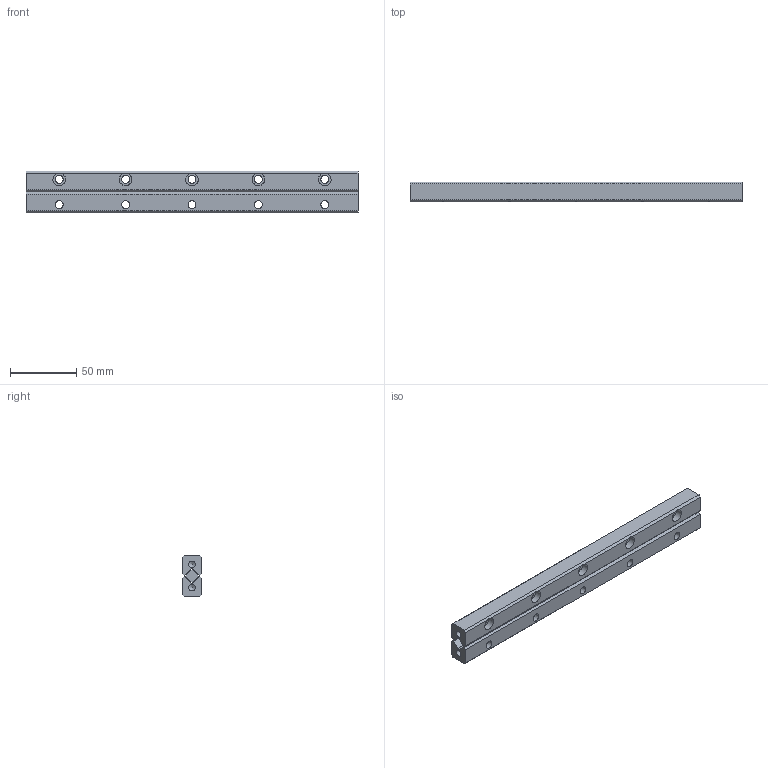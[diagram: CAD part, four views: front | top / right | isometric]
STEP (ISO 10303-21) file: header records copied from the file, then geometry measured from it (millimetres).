
FILE_DESCRIPTION((''),'2;1');
FILE_NAME('D:\製品 (図面)\カタログ用3D\リニアガイド関連\STEP形式\ACS6\ACS6250.stp','2010-07-29T15:43:25',('Tsuchiya'),(''),'Autodesk Inventor 10','Autodesk Inventor 10','');
FILE_SCHEMA(('AUTOMOTIVE_DESIGN { 1 0 10303 214 1 1 1 1 }'));
Length unit declared in the file: millimetre
Products named in the file (4): ACS6250; ACS62501; ACS62502; ACS62503
Assembly tree (3 placements, depth 2):
  ACS6250
    ACS62501
    ACS62502
    ACS62503
Bounding box: 250 x 15 x 31 mm (x, y, z)
Volume: 101061.1 mm3; surface area: 41322.1 mm2
Topology: 3 solids, 3 shells, 92 faces, 244 edges, 162 vertices
Faces by surface type: plane 52, bspline 34, cylinder 4, cone 2
Full cylindrical faces by diameter (mm): 5 x2
Entity records: 3025 total; most frequent: CARTESIAN_POINT 883, ORIENTED_EDGE 400, DIRECTION 392, EDGE_CURVE 200, VERTEX_POINT 146, EDGE_LOOP 144, VECTOR 138, LINE 138
